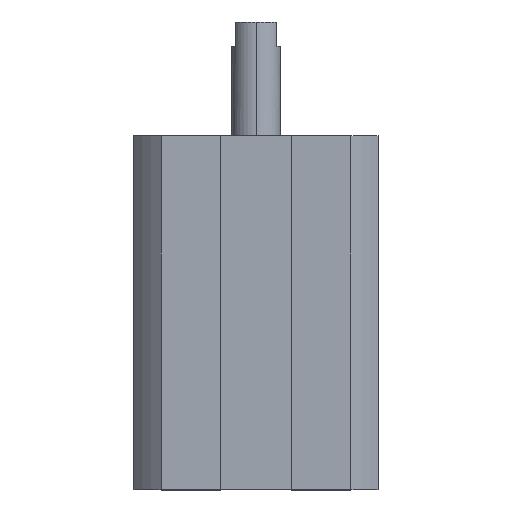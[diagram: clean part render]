
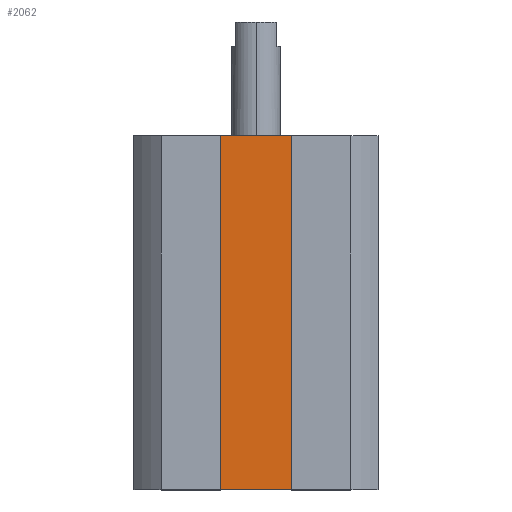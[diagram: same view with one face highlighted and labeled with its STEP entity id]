
A CAD part, top view. The second image highlights one B-rep face of the part: STEP entity #2062.
In plain terms, the highlighted planar face has unit normal (0, 0, 1).
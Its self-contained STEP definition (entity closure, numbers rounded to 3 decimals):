
#124 = VERTEX_POINT ( 'NONE', #1476 ) ;
#155 = EDGE_LOOP ( 'NONE', ( #477, #287, #858, #1848 ) ) ;
#184 = VECTOR ( 'NONE', #1322, 1000. ) ;
#199 = LINE ( 'NONE', #1239, #2241 ) ;
#249 = AXIS2_PLACEMENT_3D ( 'NONE', #1968, #733, #2112 ) ;
#287 = ORIENTED_EDGE ( 'NONE', *, *, #672, .F. ) ;
#316 = VECTOR ( 'NONE', #2049, 1000. ) ;
#386 = EDGE_CURVE ( 'NONE', #501, #2219, #552, .T. ) ;
#450 = EDGE_CURVE ( 'NONE', #124, #2219, #199, .T. ) ;
#477 = ORIENTED_EDGE ( 'NONE', *, *, #386, .F. ) ;
#501 = VERTEX_POINT ( 'NONE', #2093 ) ;
#513 = FACE_OUTER_BOUND ( 'NONE', #155, .T. ) ;
#552 = LINE ( 'NONE', #826, #316 ) ;
#672 = EDGE_CURVE ( 'NONE', #1549, #501, #1288, .T. ) ;
#733 = DIRECTION ( 'NONE',  ( 0., 0., 1. ) ) ;
#826 = CARTESIAN_POINT ( 'NONE',  ( 0., 0., 10. ) ) ;
#858 = ORIENTED_EDGE ( 'NONE', *, *, #1806, .T. ) ;
#892 = DIRECTION ( 'NONE',  ( 0., 1., 0. ) ) ;
#1096 = PLANE ( 'NONE',  #249 ) ;
#1239 = CARTESIAN_POINT ( 'NONE',  ( 4.4, -43.5, 10. ) ) ;
#1270 = CARTESIAN_POINT ( 'NONE',  ( -4.4, -43.5, 10. ) ) ;
#1288 = LINE ( 'NONE', #1270, #1319 ) ;
#1319 = VECTOR ( 'NONE', #1324, 1000. ) ;
#1322 = DIRECTION ( 'NONE',  ( 1., 0., 0. ) ) ;
#1324 = DIRECTION ( 'NONE',  ( 0., 1., 0. ) ) ;
#1342 = CARTESIAN_POINT ( 'NONE',  ( 4.4, 0., 10. ) ) ;
#1476 = CARTESIAN_POINT ( 'NONE',  ( 4.4, -43.5, 10. ) ) ;
#1490 = LINE ( 'NONE', #1496, #184 ) ;
#1496 = CARTESIAN_POINT ( 'NONE',  ( 0., -43.5, 10. ) ) ;
#1549 = VERTEX_POINT ( 'NONE', #1590 ) ;
#1590 = CARTESIAN_POINT ( 'NONE',  ( -4.4, -43.5, 10. ) ) ;
#1806 = EDGE_CURVE ( 'NONE', #1549, #124, #1490, .T. ) ;
#1848 = ORIENTED_EDGE ( 'NONE', *, *, #450, .T. ) ;
#1968 = CARTESIAN_POINT ( 'NONE',  ( 0., -43.5, 10. ) ) ;
#2049 = DIRECTION ( 'NONE',  ( 1., 0., 0. ) ) ;
#2062 = ADVANCED_FACE ( 'NONE', ( #513 ), #1096, .T. ) ;
#2093 = CARTESIAN_POINT ( 'NONE',  ( -4.4, 0., 10. ) ) ;
#2112 = DIRECTION ( 'NONE',  ( 1., 0., 0. ) ) ;
#2219 = VERTEX_POINT ( 'NONE', #1342 ) ;
#2241 = VECTOR ( 'NONE', #892, 1000. ) ;
